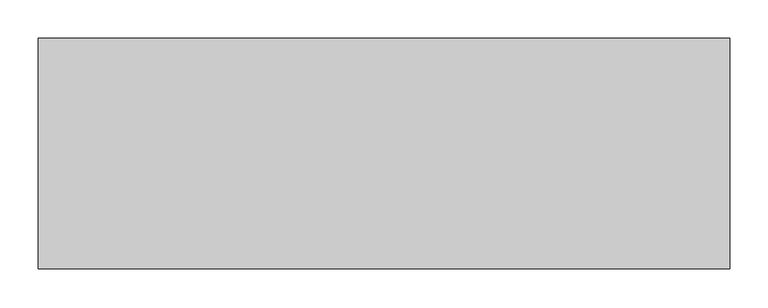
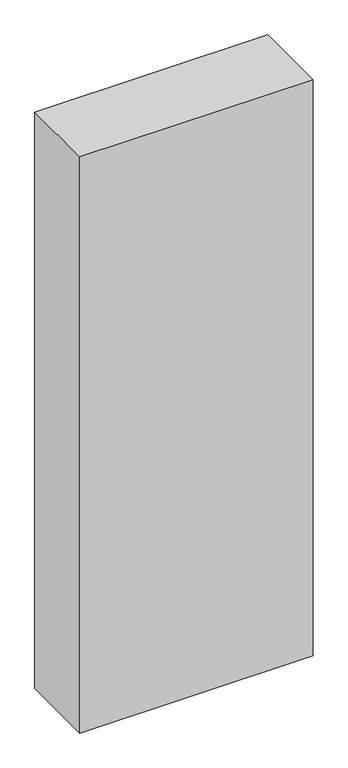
"""IFC4 building model written with IfcOpenShell, lengths in millimetres: proxy geometry, サービススペース : サービススペース(電気)."""

from ifc_helpers import new_model, si_unit, frame, origin, place, context, project, spatial, polyline, outline, extrude, source, transform, mapped, element, save


def specialty_equipment_a4dc3d81(model_context):
    return source(origin(), model_context, "Body", "SweptSolid", [
        extrude(outline(polyline([(450.0, 150.0), (450.0, -150.0), (-450.0, -150.0), (-450.0, 150.0), (450.0, 150.0)])), frame((0.0, 0.0, -1175.0), z_axis=(0.0, 0.0, 1.0), x_axis=(1.0, 0.0, 0.0)), (0.0, 0.0, 1.0), 2350.0),
    ])


if __name__ == "__main__":
    model = new_model("IFC4")
    model_context = context("Model", 3, world=origin())
    ifc_project = project(units=[si_unit("LENGTHUNIT", "METRE", prefix="MILLI")], contexts=[model_context])
    site = spatial("IfcSite", under=ifc_project)
    building = spatial("IfcBuilding", under=site)
    placement = place(None, origin())
    specialty_equipment_shape = specialty_equipment_a4dc3d81(model_context)
    element("IfcBuildingElementProxy", 1, Name="サービススペース : サービススペース(電気)", ObjectType="サービススペース : サービススペース(電気)", at=placement, inside=building, context=model_context, shape_type="MappedRepresentation", body=[
        mapped(specialty_equipment_shape, transform((0.0, 0.0, 0.0), x_axis=(1.0, 0.0, 0.0), y_axis=(0.0, 1.0, 0.0), z_axis=(0.0, 0.0, 1.0))),
    ])
    save(model, "model.ifc")
